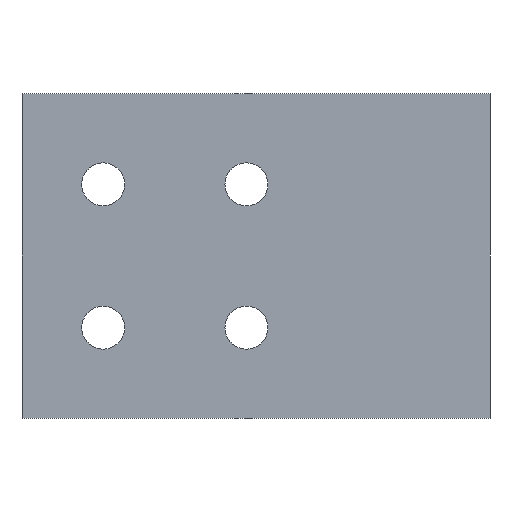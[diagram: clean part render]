
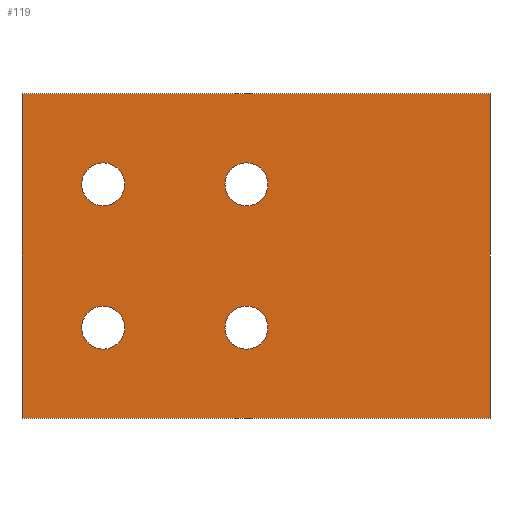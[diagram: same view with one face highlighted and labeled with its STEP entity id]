
A CAD part, front view. The second image highlights one B-rep face of the part: STEP entity #119.
In plain terms, the highlighted planar face has unit normal (0, -1, 0).
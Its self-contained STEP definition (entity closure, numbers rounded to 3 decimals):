
#107 = EDGE_CURVE( '', #141, #225, #275, .T. );
#117 = VERTEX_POINT( '', #292 );
#119 = ADVANCED_FACE( '', ( #294, #295, #296, #297, #298 ), #299, .T. );
#125 = VERTEX_POINT( '', #305 );
#131 = EDGE_CURVE( '', #203, #117, #312, .T. );
#133 = VERTEX_POINT( '', #314 );
#141 = VERTEX_POINT( '', #322 );
#147 = VERTEX_POINT( '', #329 );
#149 = VERTEX_POINT( '', #331 );
#151 = EDGE_CURVE( '', #193, #133, #333, .T. );
#153 = EDGE_CURVE( '', #187, #147, #335, .T. );
#155 = EDGE_CURVE( '', #225, #185, #337, .T. );
#165 = EDGE_CURVE( '', #147, #187, #348, .T. );
#179 = EDGE_CURVE( '', #141, #125, #363, .T. );
#185 = VERTEX_POINT( '', #370 );
#187 = VERTEX_POINT( '', #372 );
#191 = VERTEX_POINT( '', #376 );
#193 = VERTEX_POINT( '', #378 );
#203 = VERTEX_POINT( '', #389 );
#207 = EDGE_CURVE( '', #191, #149, #393, .T. );
#209 = EDGE_CURVE( '', #133, #193, #395, .T. );
#217 = EDGE_CURVE( '', #125, #185, #404, .T. );
#225 = VERTEX_POINT( '', #412 );
#243 = EDGE_CURVE( '', #149, #191, #431, .T. );
#245 = EDGE_CURVE( '', #117, #203, #433, .T. );
#275 = LINE( '', #454, #455 );
#292 = CARTESIAN_POINT( '', ( 1.25, 0., 7.5 ) );
#294 = FACE_BOUND( '', #474, .T. );
#295 = FACE_BOUND( '', #475, .T. );
#296 = FACE_BOUND( '', #476, .T. );
#297 = FACE_BOUND( '', #477, .T. );
#298 = FACE_OUTER_BOUND( '', #478, .T. );
#299 = PLANE( '', #479 );
#305 = CARTESIAN_POINT( '', ( 24.5, 0., -17. ) );
#312 = CIRCLE( '', #497, 2.25 );
#314 = CARTESIAN_POINT( '', ( -18.25, 0., -7.5 ) );
#322 = CARTESIAN_POINT( '', ( 24.5, 0., 17. ) );
#329 = CARTESIAN_POINT( '', ( 1.25, 0., -7.5 ) );
#331 = CARTESIAN_POINT( '', ( -18.25, 0., 7.5 ) );
#333 = CIRCLE( '', #525, 2.25 );
#335 = CIRCLE( '', #528, 2.25 );
#337 = LINE( '', #531, #532 );
#348 = CIRCLE( '', #545, 2.25 );
#363 = LINE( '', #567, #568 );
#370 = CARTESIAN_POINT( '', ( -24.5, 0., -17. ) );
#372 = CARTESIAN_POINT( '', ( -3.25, 0., -7.5 ) );
#376 = CARTESIAN_POINT( '', ( -13.75, 0., 7.5 ) );
#378 = CARTESIAN_POINT( '', ( -13.75, 0., -7.5 ) );
#389 = CARTESIAN_POINT( '', ( -3.25, 0., 7.5 ) );
#393 = CIRCLE( '', #605, 2.25 );
#395 = CIRCLE( '', #608, 2.25 );
#404 = LINE( '', #619, #620 );
#412 = CARTESIAN_POINT( '', ( -24.5, 0., 17. ) );
#431 = CIRCLE( '', #661, 2.25 );
#433 = CIRCLE( '', #664, 2.25 );
#454 = CARTESIAN_POINT( '', ( 24.5, 0., 17. ) );
#455 = VECTOR( '', #686, 1. );
#474 = EDGE_LOOP( '', ( #720, #721 ) );
#475 = EDGE_LOOP( '', ( #722, #723 ) );
#476 = EDGE_LOOP( '', ( #724, #725 ) );
#477 = EDGE_LOOP( '', ( #726, #727 ) );
#478 = EDGE_LOOP( '', ( #728, #729, #730, #731 ) );
#479 = AXIS2_PLACEMENT_3D( '', #732, #733, #734 );
#497 = AXIS2_PLACEMENT_3D( '', #745, #746, #747 );
#525 = AXIS2_PLACEMENT_3D( '', #759, #760, #761 );
#528 = AXIS2_PLACEMENT_3D( '', #762, #763, #764 );
#531 = CARTESIAN_POINT( '', ( -24.5, 0., 17. ) );
#532 = VECTOR( '', #765, 1. );
#545 = AXIS2_PLACEMENT_3D( '', #781, #782, #783 );
#567 = CARTESIAN_POINT( '', ( 24.5, 0., 17. ) );
#568 = VECTOR( '', #795, 1. );
#605 = AXIS2_PLACEMENT_3D( '', #825, #826, #827 );
#608 = AXIS2_PLACEMENT_3D( '', #828, #829, #830 );
#619 = CARTESIAN_POINT( '', ( 24.5, 0., -17. ) );
#620 = VECTOR( '', #842, 1. );
#661 = AXIS2_PLACEMENT_3D( '', #860, #861, #862 );
#664 = AXIS2_PLACEMENT_3D( '', #863, #864, #865 );
#686 = DIRECTION( '', ( -1., 0., 0. ) );
#720 = ORIENTED_EDGE( '', *, *, #245, .T. );
#721 = ORIENTED_EDGE( '', *, *, #131, .T. );
#722 = ORIENTED_EDGE( '', *, *, #207, .T. );
#723 = ORIENTED_EDGE( '', *, *, #243, .T. );
#724 = ORIENTED_EDGE( '', *, *, #165, .T. );
#725 = ORIENTED_EDGE( '', *, *, #153, .T. );
#726 = ORIENTED_EDGE( '', *, *, #151, .T. );
#727 = ORIENTED_EDGE( '', *, *, #209, .T. );
#728 = ORIENTED_EDGE( '', *, *, #155, .T. );
#729 = ORIENTED_EDGE( '', *, *, #217, .F. );
#730 = ORIENTED_EDGE( '', *, *, #179, .F. );
#731 = ORIENTED_EDGE( '', *, *, #107, .T. );
#732 = CARTESIAN_POINT( '', ( 24.5, 0., 17. ) );
#733 = DIRECTION( '', ( 0., -1., 0. ) );
#734 = DIRECTION( '', ( 0., 0., 1. ) );
#745 = CARTESIAN_POINT( '', ( -1., 0., 7.5 ) );
#746 = DIRECTION( '', ( 0., 1., 0. ) );
#747 = DIRECTION( '', ( -1., 0., 0. ) );
#759 = CARTESIAN_POINT( '', ( -16., 0., -7.5 ) );
#760 = DIRECTION( '', ( 0., 1., 0. ) );
#761 = DIRECTION( '', ( -1., 0., 0. ) );
#762 = CARTESIAN_POINT( '', ( -1., 0., -7.5 ) );
#763 = DIRECTION( '', ( 0., 1., 0. ) );
#764 = DIRECTION( '', ( -1., 0., 0. ) );
#765 = DIRECTION( '', ( 0., 0., -1. ) );
#781 = CARTESIAN_POINT( '', ( -1., 0., -7.5 ) );
#782 = DIRECTION( '', ( 0., 1., 0. ) );
#783 = DIRECTION( '', ( -1., 0., 0. ) );
#795 = DIRECTION( '', ( 0., 0., -1. ) );
#825 = CARTESIAN_POINT( '', ( -16., 0., 7.5 ) );
#826 = DIRECTION( '', ( 0., 1., 0. ) );
#827 = DIRECTION( '', ( -1., 0., 0. ) );
#828 = CARTESIAN_POINT( '', ( -16., 0., -7.5 ) );
#829 = DIRECTION( '', ( 0., 1., 0. ) );
#830 = DIRECTION( '', ( -1., 0., 0. ) );
#842 = DIRECTION( '', ( -1., 0., 0. ) );
#860 = CARTESIAN_POINT( '', ( -16., 0., 7.5 ) );
#861 = DIRECTION( '', ( 0., 1., 0. ) );
#862 = DIRECTION( '', ( -1., 0., 0. ) );
#863 = CARTESIAN_POINT( '', ( -1., 0., 7.5 ) );
#864 = DIRECTION( '', ( 0., 1., 0. ) );
#865 = DIRECTION( '', ( -1., 0., 0. ) );
